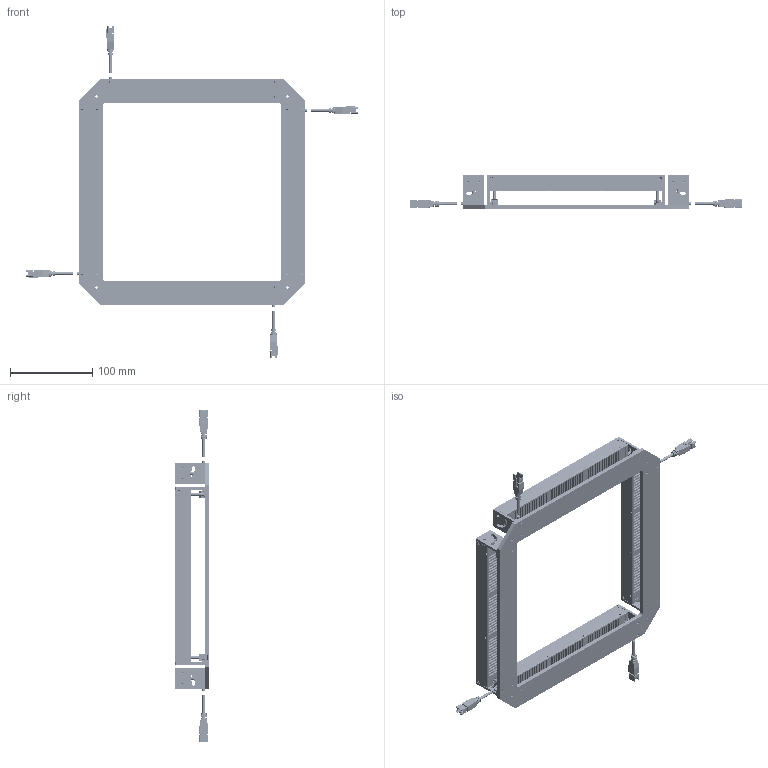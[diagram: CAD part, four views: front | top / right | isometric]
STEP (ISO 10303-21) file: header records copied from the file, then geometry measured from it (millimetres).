
FILE_DESCRIPTION (( 'STEP AP214' ), '1' );
FILE_NAME ('CST-ROS274-HF-¼òÒ×3DÍ¼.STEP', '2022-11-29T10:37:01', ( '' ), ( '' ), 'SwSTEP 2.0', 'SolidWorks 2018', '' );
FILE_SCHEMA (( 'AUTOMOTIVE_DESIGN' ));
Length unit declared in the file: millimetre
Products named in the file (110): m2beitou_.prt; m2_.prt; zhenmianban_.prt; body_12_.prt; CST-ROS274-HF-潠眢3D芞; diban_.prt; led_.prt; line_tou_.prt; beimianban_.prt; zuogudingban.prt; yougudingban.prt; diban.prt; rol-200-200.asm; ceban1_.prt; assy_.asm; mansheban_.prt; bl-210-25-w.asm
Assembly tree (36 placements, depth 5):
  m2beitou_.prt
  m2_.prt
  m2_.prt
  body_12_.prt
  CST-ROS274-HF-潠眢3D芞
    rol-200-200.asm
      diban.prt
      zuogudingban.prt  x4
      yougudingban.prt  x4
      bl-210-25-w.asm  x4
        diban_.prt
        beimianban_.prt
        zhenmianban_.prt
        led_.prt
        ceban1_.prt
        m2_.prt
        m2beitou_.prt
        assy_.asm
          line_tou_.prt
          body_12_.prt
        mansheban_.prt
Bounding box: 403.2 x 42 x 403.2 mm (x, y, z)
Volume: 187842.5 mm3; surface area: 359305.8 mm2
Topology: 80 solids, 193 shells, 8694 faces, 21908 edges, 13484 vertices
Faces by surface type: cylinder 3652, plane 3194, sphere 1312, cone 440, torus 96
Entity records: 60354 total; most frequent: CARTESIAN_POINT 12590, DIRECTION 10192, ORIENTED_EDGE 8700, EDGE_CURVE 4422, AXIS2_PLACEMENT_3D 4019, VERTEX_POINT 2811, EDGE_LOOP 2463, LINE 2154
